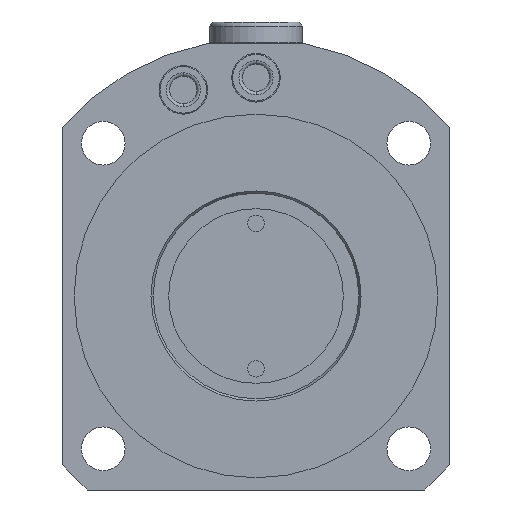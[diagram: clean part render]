
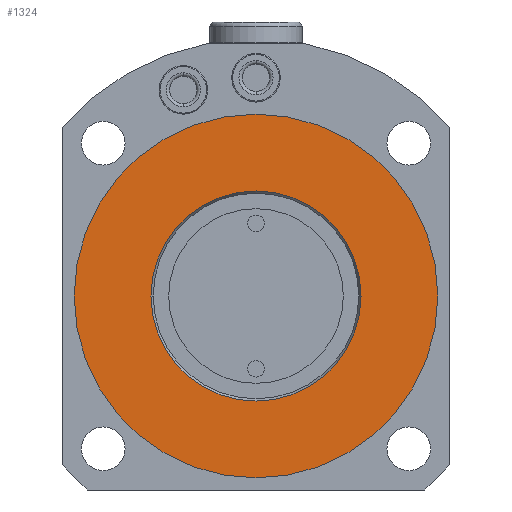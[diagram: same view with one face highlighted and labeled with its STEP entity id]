
A CAD part, front view. The second image highlights one B-rep face of the part: STEP entity #1324.
In plain terms, the highlighted planar face has unit normal (0, -1, 0).
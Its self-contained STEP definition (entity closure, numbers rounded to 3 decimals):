
#1006=PLANE('',#4349);
#1081=FACE_BOUND('',#1769,.T.);
#1082=FACE_BOUND('',#1770,.T.);
#1324=ADVANCED_FACE('',(#1081,#1082),#1006,.T.);
#1769=EDGE_LOOP('',(#2712,#2713));
#1770=EDGE_LOOP('',(#2714,#2715));
#2712=ORIENTED_EDGE('',*,*,#3602,.T.);
#2713=ORIENTED_EDGE('',*,*,#3699,.T.);
#2714=ORIENTED_EDGE('',*,*,#3596,.F.);
#2715=ORIENTED_EDGE('',*,*,#3700,.F.);
#3268=VERTEX_POINT('',#6131);
#3269=VERTEX_POINT('',#6132);
#3274=VERTEX_POINT('',#6143);
#3275=VERTEX_POINT('',#6145);
#3596=EDGE_CURVE('',#3268,#3269,#3951,.T.);
#3602=EDGE_CURVE('',#3275,#3274,#3954,.T.);
#3699=EDGE_CURVE('',#3274,#3275,#4003,.T.);
#3700=EDGE_CURVE('',#3269,#3268,#4004,.T.);
#3951=CIRCLE('',#4261,37.5);
#3954=CIRCLE('',#4265,21.662);
#4003=CIRCLE('',#4346,21.662);
#4004=CIRCLE('',#4348,37.5);
#4261=AXIS2_PLACEMENT_3D('',#6130,#4966,#4967);
#4265=AXIS2_PLACEMENT_3D('',#6144,#4977,#4978);
#4346=AXIS2_PLACEMENT_3D('',#6446,#5172,#5173);
#4348=AXIS2_PLACEMENT_3D('',#6448,#5176,#5177);
#4349=AXIS2_PLACEMENT_3D('',#6449,#5178,#5179);
#4966=DIRECTION('',(0.,1.,0.));
#4967=DIRECTION('',(-1.,0.,0.));
#4977=DIRECTION('',(0.,1.,0.));
#4978=DIRECTION('',(-1.,0.,0.));
#5172=DIRECTION('',(0.,1.,0.));
#5173=DIRECTION('',(-1.,0.,0.));
#5176=DIRECTION('',(0.,1.,0.));
#5177=DIRECTION('',(-1.,0.,0.));
#5178=DIRECTION('',(0.,-1.,0.));
#5179=DIRECTION('',(-1.,0.,0.));
#6130=CARTESIAN_POINT('',(0.,-107.,0.));
#6131=CARTESIAN_POINT('',(-37.5,-107.,0.));
#6132=CARTESIAN_POINT('',(37.5,-107.,0.));
#6143=CARTESIAN_POINT('',(-21.662,-107.,0.));
#6144=CARTESIAN_POINT('',(0.,-107.,0.));
#6145=CARTESIAN_POINT('',(21.662,-107.,0.));
#6446=CARTESIAN_POINT('',(0.,-107.,0.));
#6448=CARTESIAN_POINT('',(0.,-107.,0.));
#6449=CARTESIAN_POINT('',(-21.662,-107.,0.));
